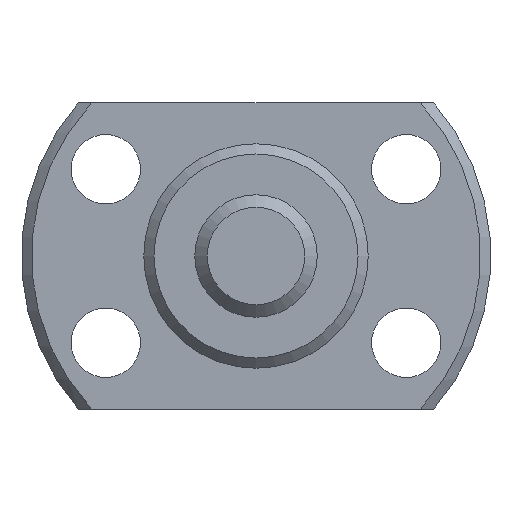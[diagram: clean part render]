
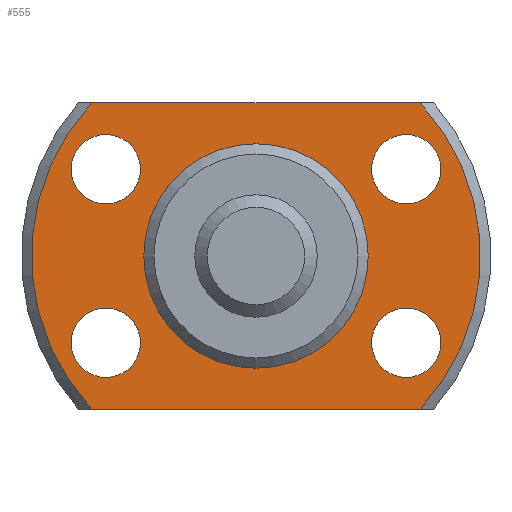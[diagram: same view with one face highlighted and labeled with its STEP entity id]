
A CAD part, left-side view. The second image highlights one B-rep face of the part: STEP entity #555.
In plain terms, the highlighted planar face has unit normal (-1, 0, 0) as drawn and (1, 0, 0) by its records, which use the part's own axes.
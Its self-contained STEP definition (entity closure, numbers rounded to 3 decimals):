
#51=LINE('',#981,#67);
#52=LINE('',#983,#68);
#67=VECTOR('',#810,1000.);
#68=VECTOR('',#811,1000.);
#174=ORIENTED_EDGE('',*,*,#268,.T.);
#175=ORIENTED_EDGE('',*,*,#246,.T.);
#176=ORIENTED_EDGE('',*,*,#269,.T.);
#177=ORIENTED_EDGE('',*,*,#270,.T.);
#178=ORIENTED_EDGE('',*,*,#271,.F.);
#179=ORIENTED_EDGE('',*,*,#272,.F.);
#180=ORIENTED_EDGE('',*,*,#273,.F.);
#181=ORIENTED_EDGE('',*,*,#274,.F.);
#182=ORIENTED_EDGE('',*,*,#267,.F.);
#246=EDGE_CURVE('',#303,#305,#350,.T.);
#267=EDGE_CURVE('',#324,#324,#365,.T.);
#268=EDGE_CURVE('',#325,#303,#51,.T.);
#269=EDGE_CURVE('',#305,#326,#52,.T.);
#270=EDGE_CURVE('',#326,#325,#366,.T.);
#271=EDGE_CURVE('',#327,#327,#367,.T.);
#272=EDGE_CURVE('',#328,#328,#368,.T.);
#273=EDGE_CURVE('',#329,#329,#369,.T.);
#274=EDGE_CURVE('',#330,#330,#370,.T.);
#303=VERTEX_POINT('',#916);
#305=VERTEX_POINT('',#923);
#324=VERTEX_POINT('',#979);
#325=VERTEX_POINT('',#982);
#326=VERTEX_POINT('',#984);
#327=VERTEX_POINT('',#987);
#328=VERTEX_POINT('',#989);
#329=VERTEX_POINT('',#991);
#330=VERTEX_POINT('',#993);
#350=CIRCLE('',#628,11.);
#365=CIRCLE('',#652,5.3);
#366=CIRCLE('',#654,11.);
#367=CIRCLE('',#655,1.7);
#368=CIRCLE('',#656,1.7);
#369=CIRCLE('',#657,1.7);
#370=CIRCLE('',#658,1.7);
#423=EDGE_LOOP('',(#174,#175,#176,#177));
#424=EDGE_LOOP('',(#178));
#425=EDGE_LOOP('',(#179));
#426=EDGE_LOOP('',(#180));
#427=EDGE_LOOP('',(#181));
#428=EDGE_LOOP('',(#182));
#493=FACE_BOUND('',#423,.T.);
#494=FACE_BOUND('',#424,.T.);
#495=FACE_BOUND('',#425,.T.);
#496=FACE_BOUND('',#426,.T.);
#497=FACE_BOUND('',#427,.T.);
#498=FACE_BOUND('',#428,.T.);
#524=PLANE('',#653);
#555=ADVANCED_FACE('',(#493,#494,#495,#496,#497,#498),#524,.T.);
#628=AXIS2_PLACEMENT_3D('',#924,#754,#755);
#652=AXIS2_PLACEMENT_3D('',#978,#806,#807);
#653=AXIS2_PLACEMENT_3D('',#980,#808,#809);
#654=AXIS2_PLACEMENT_3D('',#985,#812,#813);
#655=AXIS2_PLACEMENT_3D('',#986,#814,#815);
#656=AXIS2_PLACEMENT_3D('',#988,#816,#817);
#657=AXIS2_PLACEMENT_3D('',#990,#818,#819);
#658=AXIS2_PLACEMENT_3D('',#992,#820,#821);
#754=DIRECTION('',(1.,0.,0.));
#755=DIRECTION('',(0.,0.,-1.));
#806=DIRECTION('',(1.,0.,0.));
#807=DIRECTION('',(0.,0.,-1.));
#808=DIRECTION('',(1.,0.,0.));
#809=DIRECTION('',(0.,0.,-1.));
#810=DIRECTION('',(0.,-1.,0.));
#811=DIRECTION('',(0.,1.,0.));
#812=DIRECTION('',(1.,0.,0.));
#813=DIRECTION('',(0.,0.,-1.));
#814=DIRECTION('',(1.,0.,0.));
#815=DIRECTION('',(0.,0.,-1.));
#816=DIRECTION('',(1.,0.,0.));
#817=DIRECTION('',(0.,0.,-1.));
#818=DIRECTION('',(1.,0.,0.));
#819=DIRECTION('',(0.,0.,-1.));
#820=DIRECTION('',(1.,0.,0.));
#821=DIRECTION('',(0.,0.,-1.));
#916=CARTESIAN_POINT('',(3.5,-8.047,7.5));
#923=CARTESIAN_POINT('',(3.5,-8.047,-7.5));
#924=CARTESIAN_POINT('',(3.5,0.,0.));
#978=CARTESIAN_POINT('',(3.5,0.,0.));
#979=CARTESIAN_POINT('',(3.5,0.,-5.3));
#980=CARTESIAN_POINT('',(3.5,5.3,0.));
#981=CARTESIAN_POINT('',(3.5,11.5,7.5));
#982=CARTESIAN_POINT('',(3.5,8.047,7.5));
#983=CARTESIAN_POINT('',(3.5,-11.5,-7.5));
#984=CARTESIAN_POINT('',(3.5,8.047,-7.5));
#985=CARTESIAN_POINT('',(3.5,0.,0.));
#986=CARTESIAN_POINT('',(3.5,7.361,4.25));
#987=CARTESIAN_POINT('',(3.5,7.361,2.55));
#988=CARTESIAN_POINT('',(3.5,-7.361,4.25));
#989=CARTESIAN_POINT('',(3.5,-7.361,2.55));
#990=CARTESIAN_POINT('',(3.5,-7.361,-4.25));
#991=CARTESIAN_POINT('',(3.5,-7.361,-5.95));
#992=CARTESIAN_POINT('',(3.5,7.361,-4.25));
#993=CARTESIAN_POINT('',(3.5,7.361,-5.95));
